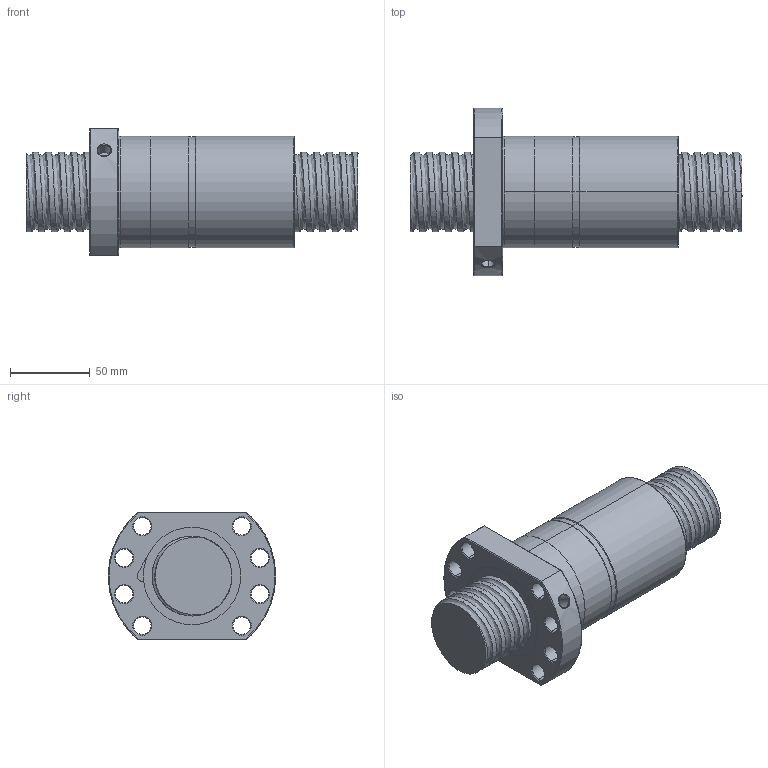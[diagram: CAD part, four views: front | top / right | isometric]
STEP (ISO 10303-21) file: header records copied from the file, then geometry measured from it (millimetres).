
FILE_DESCRIPTION (( 'STEP AP214' ), '1' );
FILE_NAME ('FDDC05008T5-D-C.STEP', '2010-07-07T01:43:29', ( 'XPAUTO' ), ( 'XPAUTO' ), 'SwSTEP 2.0', 'SolidWorks 2007', '' );
FILE_SCHEMA (( 'AUTOMOTIVE_DESIGN' ));
Length unit declared in the file: millimetre
Products named in the file (3): FDDC05008T5-D-C; FDDC05008T5-D-C.sldasm-Part-1_預設; FDDC05008T5-D-C.sldasm-Part-2_預設
Assembly tree (2 placements, depth 2):
  FDDC05008T5-D-C
    FDDC05008T5-D-C.sldasm-Part-1_預設
    FDDC05008T5-D-C.sldasm-Part-2_預設
Bounding box: 208 x 105 x 80 mm (x, y, z)
Volume: 670498.2 mm3; surface area: 108375.9 mm2
Topology: 2 solids, 2 shells, 166 faces, 416 edges, 259 vertices
Faces by surface type: cylinder 97, cone 32, plane 22, torus 10, bspline 5
Entity records: 47867 total; most frequent: CARTESIAN_POINT 43961, ORIENTED_EDGE 832, DIRECTION 746, EDGE_CURVE 416, AXIS2_PLACEMENT_3D 300, VERTEX_POINT 259, EDGE_LOOP 191, FACE_OUTER_BOUND 166
